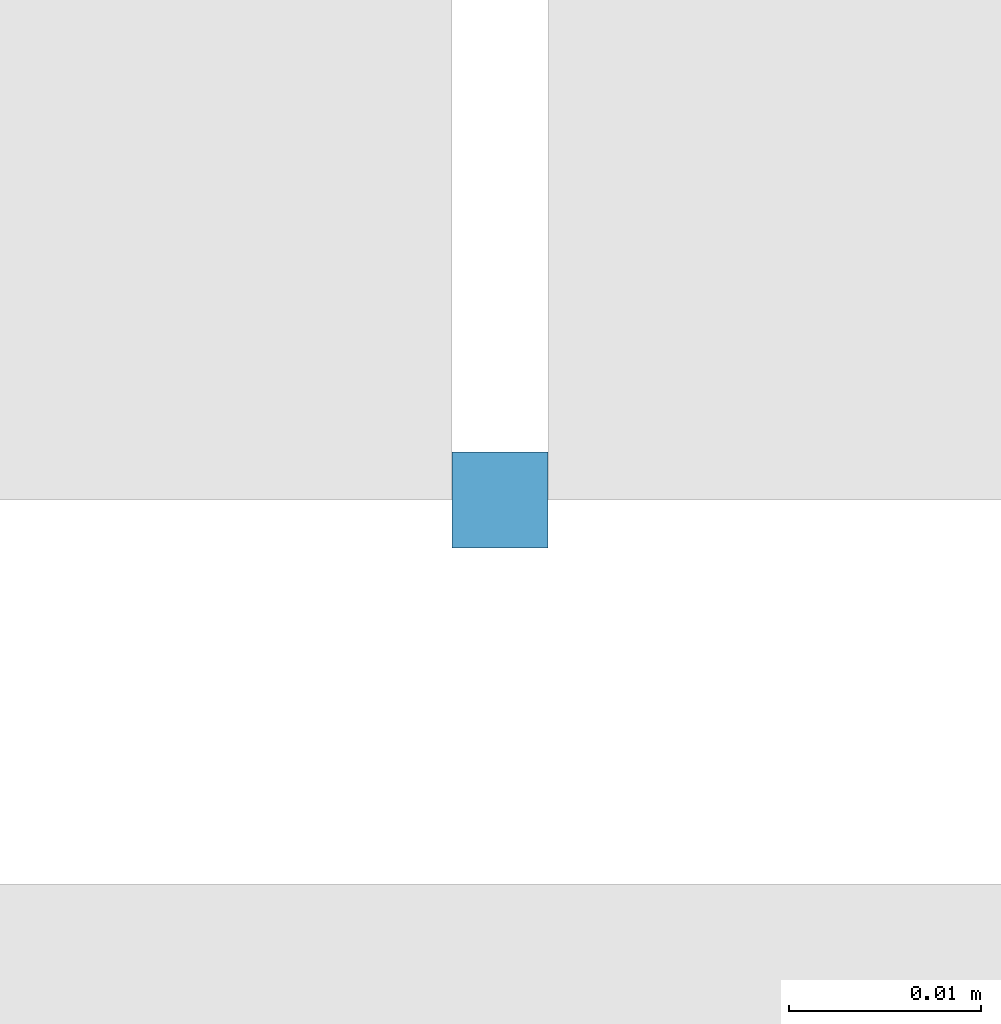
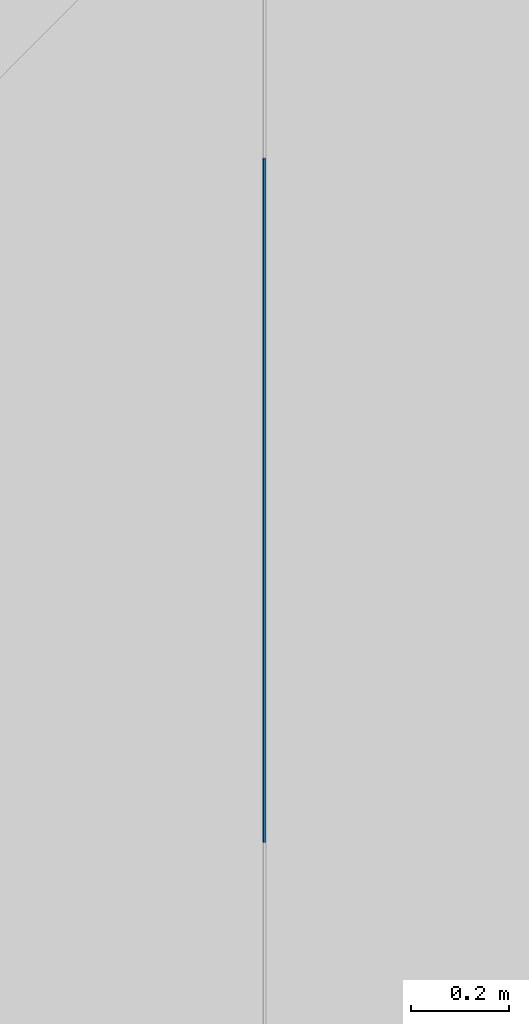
# One storey, part 77 of 302: 1 member, 1 element without a shape of its own.
"""IFC2X3 building model written with IfcOpenShell, lengths in metres."""

from ifc_helpers import new_model, entity, si_unit, converted_unit, derived_unit, direction, frame, frame_2d, origin, place, context, subcontext, project, spatial, rectangle, extrude, source, transform, mapped, material, type_object, type_shapes, element, aggregate, save


model = new_model("IFC2X3")

# Units and contexts
model_context = context("Model", 3, precision=1e-05, world=origin(), true_north=direction((6.12303176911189e-17, 1.0)))
body_context = subcontext(model_context, "Body", "Model", "MODEL_VIEW")
ifc_project = project(units=[si_unit("LENGTHUNIT", "METRE"), si_unit("AREAUNIT", "SQUARE_METRE"), si_unit("VOLUMEUNIT", "CUBIC_METRE"), converted_unit("PLANEANGLEUNIT", "DEGREE", entity("IfcRatioMeasure", 0.0174532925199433), si_unit("PLANEANGLEUNIT", "RADIAN"), dimensions=[0, 0, 0, 0, 0, 0, 0]), si_unit("MASSUNIT", "GRAM", prefix="KILO"), derived_unit("MASSDENSITYUNIT", [(si_unit("MASSUNIT", "GRAM", prefix="KILO"), 1), (si_unit("LENGTHUNIT", "METRE"), -3)]), derived_unit("MOMENTOFINERTIAUNIT", [(si_unit("LENGTHUNIT", "METRE"), 4)]), si_unit("TIMEUNIT", "SECOND"), si_unit("FREQUENCYUNIT", "HERTZ"), si_unit("THERMODYNAMICTEMPERATUREUNIT", "DEGREE_CELSIUS"), derived_unit("THERMALTRANSMITTANCEUNIT", [(si_unit("MASSUNIT", "GRAM", prefix="KILO"), 1), (si_unit("THERMODYNAMICTEMPERATUREUNIT", "KELVIN"), -1), (si_unit("TIMEUNIT", "SECOND"), -3)]), derived_unit("VOLUMETRICFLOWRATEUNIT", [(si_unit("LENGTHUNIT", "METRE"), 3), (si_unit("TIMEUNIT", "SECOND"), -1)]), si_unit("ELECTRICCURRENTUNIT", "AMPERE"), si_unit("ELECTRICVOLTAGEUNIT", "VOLT"), si_unit("POWERUNIT", "WATT"), si_unit("FORCEUNIT", "NEWTON", prefix="KILO"), si_unit("ILLUMINANCEUNIT", "LUX"), si_unit("LUMINOUSFLUXUNIT", "LUMEN"), si_unit("LUMINOUSINTENSITYUNIT", "CANDELA"), derived_unit("USERDEFINED", [(si_unit("MASSUNIT", "GRAM", prefix="KILO"), -1), (si_unit("LENGTHUNIT", "METRE"), -2), (si_unit("TIMEUNIT", "SECOND"), 3), (si_unit("LUMINOUSFLUXUNIT", "LUMEN"), 1)]), derived_unit("LINEARVELOCITYUNIT", [(si_unit("LENGTHUNIT", "METRE"), 1), (si_unit("TIMEUNIT", "SECOND"), -1)]), si_unit("PRESSUREUNIT", "PASCAL"), derived_unit("USERDEFINED", [(si_unit("LENGTHUNIT", "METRE"), -2), (si_unit("MASSUNIT", "GRAM", prefix="KILO"), 1), (si_unit("TIMEUNIT", "SECOND"), -2)]), derived_unit("LINEARFORCEUNIT", [(si_unit("MASSUNIT", "GRAM", prefix="KILO"), 1), (si_unit("LENGTHUNIT", "METRE"), 1), (si_unit("TIMEUNIT", "SECOND"), -2), (si_unit("LENGTHUNIT", "METRE"), -1)]), derived_unit("PLANARFORCEUNIT", [(si_unit("MASSUNIT", "GRAM", prefix="KILO"), 1), (si_unit("LENGTHUNIT", "METRE"), 1), (si_unit("TIMEUNIT", "SECOND"), -2), (si_unit("LENGTHUNIT", "METRE"), -2)])], contexts=[model_context])

# Site, building, storey
site_placement = place(None, origin())
site = spatial("IfcSite", under=ifc_project, at=site_placement, Name="Default", CompositionType="ELEMENT")
building_placement = place(site_placement, origin())
building = spatial("IfcBuilding", under=site, at=building_placement, CompositionType="ELEMENT")
storey_placement = place(building_placement, frame((0.0, 0.0, -1.3)))
storey = spatial("IfcBuildingStorey", under=building, at=storey_placement, Name="00_EG", CompositionType="ELEMENT", Elevation=-1.3)

# Curtain wall, member
curtain_wall_type = type_object("IfcCurtainWallType", Name="Fassade:Curtain Wall 1", PredefinedType="NOTDEFINED")
curtain_wall_placement = place(storey_placement, frame((0.0, 0.0, 1.3)))
curtain_wall = element("IfcCurtainWall", 1, at=curtain_wall_placement, inside=storey, type_object=curtain_wall_type, Name="Fassade:Curtain Wall 1", ObjectType="Fassade:Curtain Wall 1")
ifc_material = material(Name="Aluminium")
member_type = type_object("IfcMemberType", Name="Rectangular Mullion:Paneele Spalt", PredefinedType="MULLION", material=ifc_material)
shared_shape = source(origin(), body_context, "Body", "SweptSolid", [
    extrude(rectangle(XDim=0.005, YDim=0.005, at=frame_2d((0.0, -6.50521303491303e-19), x_axis=(1.0, 0.0))), frame((0.0, 0.0, -1.70964751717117), z_axis=(0.0, 0.0, 1.0), x_axis=(0.0, -1.0, 0.0)), (0.0, 0.0, 1.0), 1.70964751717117),
])
type_shapes(member_type, [shared_shape])
member_placement = place(storey_placement, frame((-224.610111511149, 45.578088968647, 8.49999999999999), z_axis=(0.0, 0.0, -1.0), x_axis=(-1.0, 0.0, 0.0)))
member = element("IfcMember", 2, at=member_placement, type_object=member_type, material=ifc_material, Name="Rectangular Mullion:Paneele Spalt", ObjectType="Rectangular Mullion:Paneele Spalt", context=body_context, shape_type="MappedRepresentation", body=[
    mapped(shared_shape, transform((0.0, 0.0, 0.0), scale=1.0)),
])
aggregate(curtain_wall, [member])

save(model, "model.ifc")
